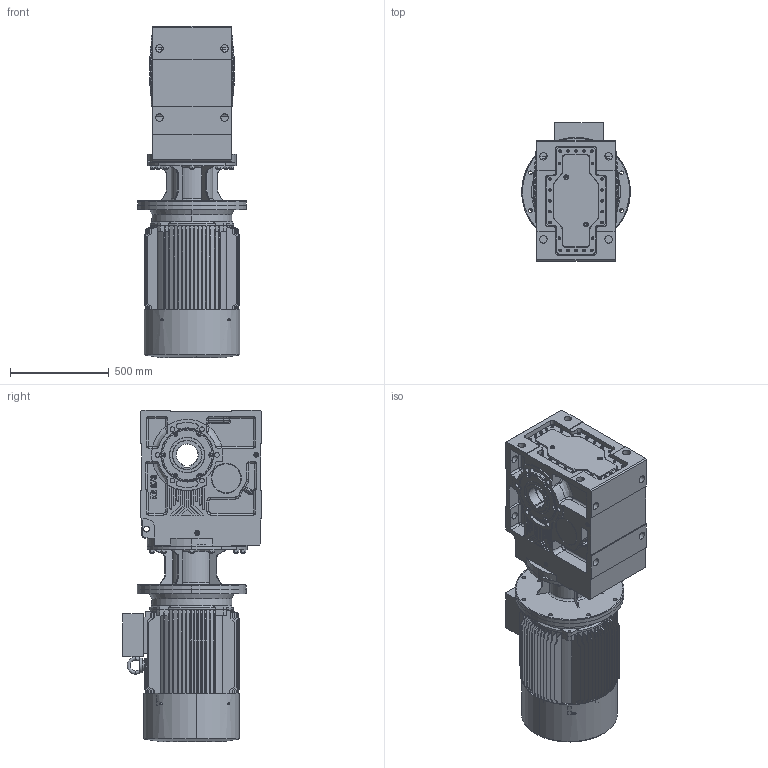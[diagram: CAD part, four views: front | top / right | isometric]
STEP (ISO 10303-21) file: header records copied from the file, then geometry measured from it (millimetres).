
FILE_DESCRIPTION (( 'STEP AP203' ), '1' );
FILE_NAME ('KV_873_0_M3-250-4.STEP', '2019-07-18T08:25:52', ( '' ), ( '' ), 'SwSTEP 2.0', 'SolidWorks 2012', '' );
FILE_SCHEMA (( 'CONFIG_CONTROL_DESIGN' ));
Products named in the file (13): KV_873_0_M3-250-4; Y2-250-4.6.8ú¼280-2Ã¦Íß¦ð-Ô©Ã_-¼+¤; Y2-250-4 B5; Y2-250-2.4.6.8ｦｾﾂ-ｩﾃ Y2-250-2ﾃｦﾂ-ｩﾃ_-ｼ+､; Y2-250 B5+ｷﾎｨ_-ｼ+､; Y2-250-4.6.8-ｦﾈﾁﾂ-ｩﾃ_-ｼ+､; KN_87_3_0_A-B25_B5_ML23A_0_0_0_0_0_0_0_0_0_0_0_0_M1; Y2-250M-2.4.6.8ﾀiﾍ_-ｼ+､; Y2-250-4ﾍﾟ_-ｼ+､; 280ﾁｧ+ﾀ_-ｼ+､; 83A250B5_Varsayìlan; K873_Varsayìlan; ML23A_Varsayìlan
Assembly tree (12 placements, depth 3):
  KV_873_0_M3-250-4
    KN_87_3_0_A-B25_B5_ML23A_0_0_0_0_0_0_0_0_0_0_0_0_M1
      K873_Varsayìlan
      83A250B5_Varsayìlan
      ML23A_Varsayìlan
    Y2-250-4 B5
      280ﾁｧ+ﾀ_-ｼ+､
      Y2-250-4ﾍﾟ_-ｼ+､
      Y2-250M-2.4.6.8ﾀiﾍ_-ｼ+､
      Y2-250-4.6.8-ｦﾈﾁﾂ-ｩﾃ_-ｼ+､
      Y2-250-2.4.6.8ｦｾﾂ-ｩﾃ Y2-250-2ﾃｦﾂ-ｩﾃ_-ｼ+､
      Y2-250 B5+ｷﾎｨ_-ｼ+､
      Y2-250-4.6.8ú¼280-2Ã¦Íß¦ð-Ô©Ã_-¼+¤
Bounding box: 550 x 701.5 x 1674.97 mm (x, y, z)
Volume: 42723471.4 mm3; surface area: 9846518.6 mm2
Topology: 9 solids, 56 shells, 3257 faces, 8325 edges, 5287 vertices
Faces by surface type: plane 1371, cylinder 1007, cone 545, bspline 330, torus 4
Entity records: 117981 total; most frequent: CARTESIAN_POINT 39319, ORIENTED_EDGE 16434, DIRECTION 15780, EDGE_CURVE 8237, AXIS2_PLACEMENT_3D 5830, VERTEX_POINT 5280, LINE 4120, VECTOR 4120
